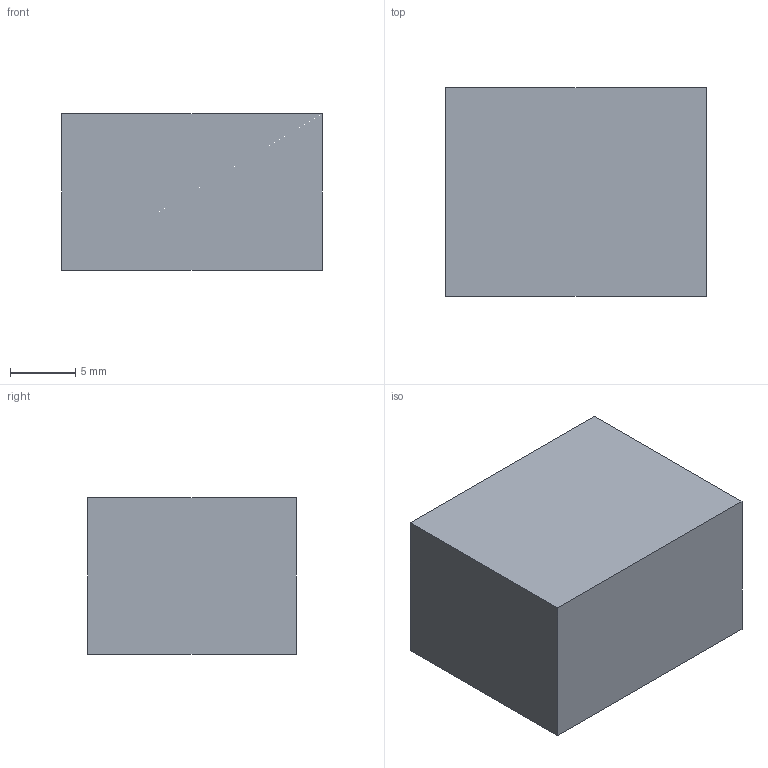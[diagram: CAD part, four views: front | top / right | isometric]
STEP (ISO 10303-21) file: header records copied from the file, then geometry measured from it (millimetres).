
FILE_DESCRIPTION(('Open CASCADE Model'),'2;1');
FILE_NAME('Open CASCADE Shape Model','2026-09-13T10:34:54',('Author'),( 'Open CASCADE'),'Open CASCADE STEP processor 7.9','Open CASCADE 7.9' ,'Unknown');
FILE_SCHEMA(('AUTOMOTIVE_DESIGN { 1 0 10303 214 1 1 1 1 }'));
Length unit declared in the file: millimetre
Products named in the file (1): Open CASCADE STEP translator 7.9 1
Bounding box: 20 x 16 x 12 mm (x, y, z)
Volume: 3840 mm3; surface area: 1504 mm2
Topology: 1 solids, 1 shells, 6 faces, 12 edges, 8 vertices
Faces by surface type: plane 6
Entity records: 298 total; most frequent: CARTESIAN_POINT 75, DIRECTION 26, ORIENTED_EDGE 24, PCURVE 24, DEFINITIONAL_REPRESENTATION 24, B_SPLINE_CURVE_WITH_KNOTS 24, EDGE_CURVE 12, SURFACE_CURVE 12
